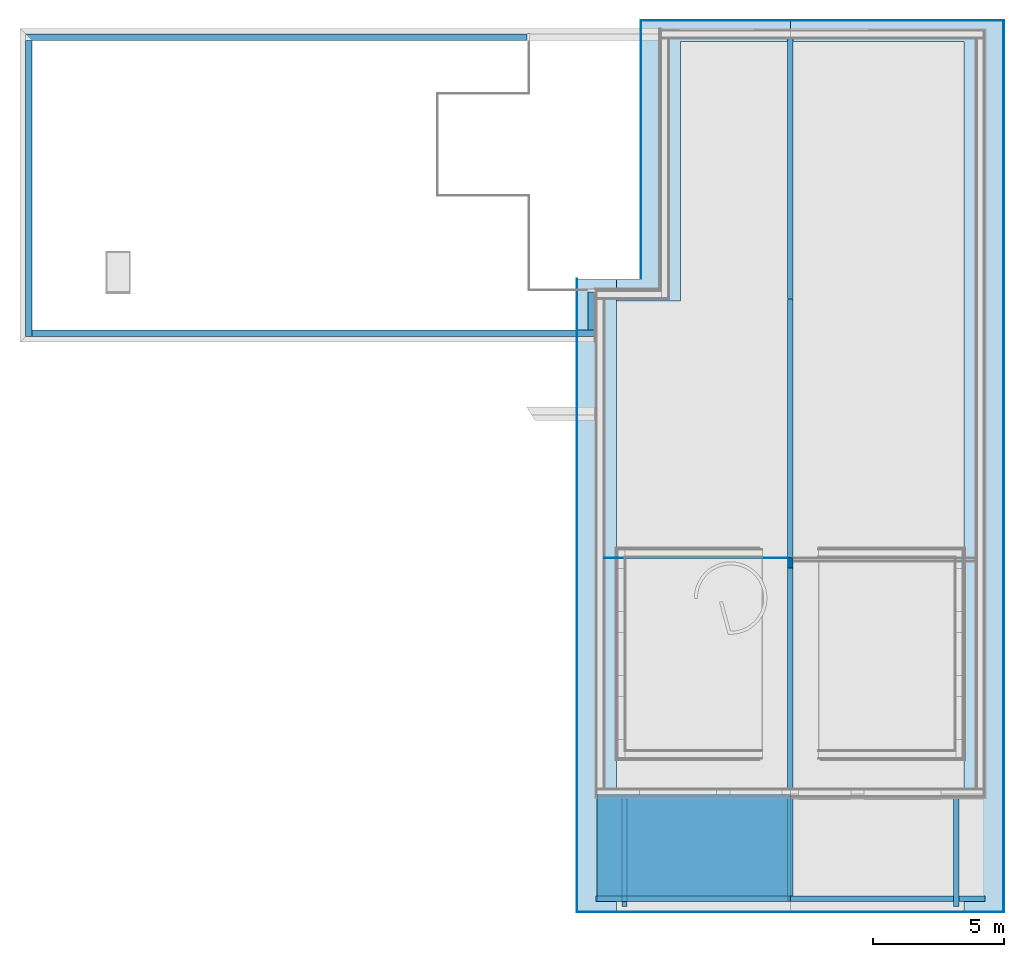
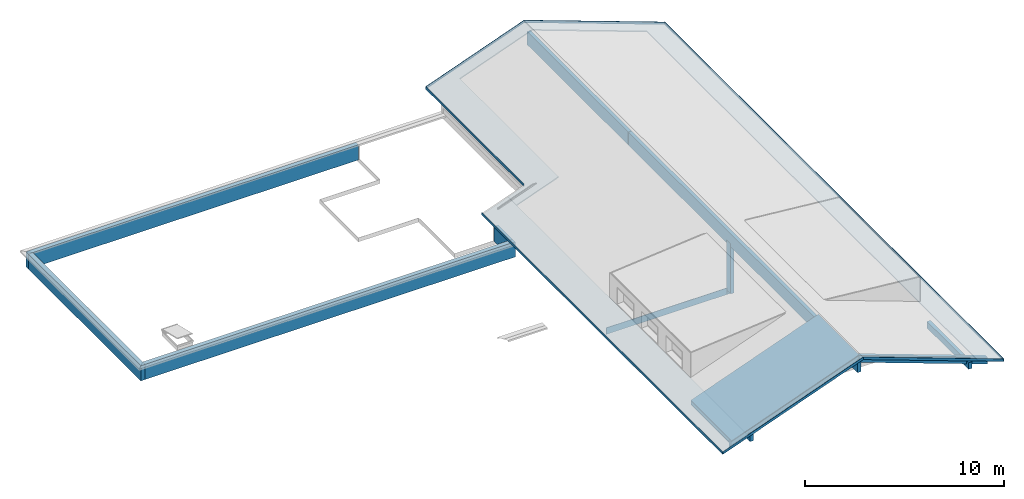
# One storey, part 1 of 12: 13 beams, 7 roofs, 5 building element parts, 1 column, 1 element without a shape of its own.
"""IFC4 building model written with IfcOpenShell, lengths in millimetres."""

from ifc_helpers import new_model, entity, si_unit, converted_unit, derived_unit, direction, frame, origin_with_axes, place, context, subcontext, project, spatial, polygons, material, constituent, constituent_set, type_object, element, aggregate, save


model = new_model("IFC4")

# Units and contexts
model_context = context("Model", 3, precision=0.01, world=origin_with_axes(), true_north=direction((0.0, 1.0)))
body_context = subcontext(model_context, "Body", "Model", "MODEL_VIEW")
ifc_project = project(units=[si_unit("LENGTHUNIT", "METRE", prefix="MILLI"), si_unit("AREAUNIT", "SQUARE_METRE"), si_unit("VOLUMEUNIT", "CUBIC_METRE"), converted_unit("PLANEANGLEUNIT", "DEGREE", entity("IfcPlaneAngleMeasure", 0.0174532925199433), si_unit("PLANEANGLEUNIT", "RADIAN"), dimensions=[0, 0, 0, 0, 0, 0, 0]), converted_unit("TIMEUNIT", "Year", entity("IfcTimeMeasure", 31557600.0), si_unit("TIMEUNIT", "SECOND"), dimensions=[0, 0, 1, 0, 0, 0, 0]), si_unit("MASSUNIT", "GRAM", prefix="KILO"), si_unit("THERMODYNAMICTEMPERATUREUNIT", "DEGREE_CELSIUS"), si_unit("LUMINOUSINTENSITYUNIT", "LUMEN"), si_unit("ENERGYUNIT", "JOULE", prefix="MEGA"), derived_unit("THERMALCONDUCTANCEUNIT", [(si_unit("POWERUNIT", "WATT"), 1), (si_unit("LENGTHUNIT", "METRE"), -1), (si_unit("THERMODYNAMICTEMPERATUREUNIT", "KELVIN"), -1)]), derived_unit("SPECIFICHEATCAPACITYUNIT", [(si_unit("ENERGYUNIT", "JOULE"), 1), (si_unit("MASSUNIT", "GRAM", prefix="KILO"), -1), (si_unit("THERMODYNAMICTEMPERATUREUNIT", "KELVIN"), -1)]), derived_unit("MASSDENSITYUNIT", [(si_unit("MASSUNIT", "GRAM", prefix="KILO"), 1), (si_unit("VOLUMEUNIT", "CUBIC_METRE"), -1)])], contexts=[model_context])

# Site, building, storey
site_placement = place(None, origin_with_axes())
site = spatial("IfcSite", under=ifc_project, at=site_placement, Name="Gelände", CompositionType="ELEMENT")
building_placement = place(site_placement, origin_with_axes())
building = spatial("IfcBuilding", under=site, at=building_placement, Name="Gebäude", CompositionType="ELEMENT")
storey_placement = place(building_placement, frame((0.0, 0.0, 11600.0), z_axis=(0.0, 0.0, 1.0), x_axis=(1.0, 0.0, 0.0)))
storey = spatial("IfcBuildingStorey", under=building, at=storey_placement, Name="Dachaufsicht", CompositionType="ELEMENT", Elevation=11600.0)

# Column
ifc_material_1 = material(Name="Vollholzwerkstoff")
column_type = type_object("IfcColumnType", Name="Vollholzwerkstoff 200 x 400", PredefinedType="NOTDEFINED")
column_placement = place(storey_placement, frame((25428.99744442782, 17489.67011252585, 243.9998960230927), z_axis=(0.0, 0.0, 1.0), x_axis=(1.0, 0.0, 0.0)))
element("IfcColumn", 1, at=column_placement, inside=storey, type_object=column_type, material=ifc_material_1, Name="Stütze-015", PredefinedType="NOTDEFINED", context=body_context, shape_type="Tessellation", body=[
    polygons([(100.0000000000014, -199.9999999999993, 256.0000000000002), (100.0000000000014, 172.9999999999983, 256.0000000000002), (100.0000000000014, 172.9999999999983, 0.0), (100.0000000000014, 199.9999999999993, 0.0), (100.0000000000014, 199.9999999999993, 3344.987419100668), (100.0000000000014, -199.9999999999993, 3344.987419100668), (-100.0000000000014, 172.9999999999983, 256.0000000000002), (-100.0000000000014, -199.9999999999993, 256.0000000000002), (-100.0000000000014, 172.9999999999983, 0.0), (-100.0000000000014, 199.9999999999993, 0.0), (-100.0000000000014, 199.9999999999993, 3344.987419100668), (-100.0000000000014, -199.9999999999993, 3344.987419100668)], [[[1, 2, 3, 4, 5, 6]], [[7, 2, 1, 8]], [[3, 2, 7, 9]], [[4, 3, 9, 10]], [[11, 5, 4, 10]], [[5, 11, 12, 6]], [[12, 8, 1, 6]], [[9, 7, 8, 12, 11, 10]]], closed=True),
])

# Beams
ifc_material_2 = material(Name="Massivholz")
beam_type_1 = type_object("IfcBeamType", Name="Massivholz 200 x 400", PredefinedType="NOTDEFINED")
beam_1_placement = place(storey_placement, frame((31882.99741880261, 8518.597281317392, 1906.551464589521), z_axis=(0.0, 0.0, 1.0), x_axis=(-1.0, 0.0, 0.0)))
element("IfcBeam", 2, at=beam_1_placement, inside=storey, type_object=beam_type_1, material=ifc_material_2, Name="Unterzug-027", PredefinedType="NOTDEFINED", context=body_context, shape_type="Tessellation", body=[
    polygons([(199.9999999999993, 0.0, 0.0), (199.9999999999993, 4199.999999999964, 0.0), (0.0, 4199.999999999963, 0.0), (0.0, 0.0, 0.0), (199.9999999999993, 0.0, -400.0000000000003), (199.9999999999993, 4199.999999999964, -400.0000000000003), (0.0, 4199.999999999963, -400.0000000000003), (0.0, 0.0, -400.0000000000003)], [[[1, 2, 3, 4]], [[5, 6, 2, 1]], [[3, 2, 6, 7]], [[4, 3, 7, 8]], [[5, 1, 4, 8]], [[8, 7, 6, 5]]], closed=True),
])
beam_2_placement = place(storey_placement, frame((25428.99744456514, 4518.597281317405, 4431.961620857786), z_axis=(0.0, 0.0, 1.0), x_axis=(0.0, -1.0, 0.0)))
element("IfcBeam", 3, at=beam_2_placement, inside=storey, type_object=beam_type_1, material=ifc_material_2, Name="Unterzug-027", PredefinedType="NOTDEFINED", context=body_context, shape_type="Tessellation", body=[
    polygons([(-200.0000000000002, 6453.999974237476, -2525.410156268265), (-200.0000000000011, 6253.999974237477, -2525.410156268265), (-199.9999999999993, 6253.999974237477, -2701.940944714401), (-200.0000000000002, 100.000000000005, -462.0681324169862), (-200.0000000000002, 100.000000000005, -228.0267504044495), (-199.9999999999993, -1.373123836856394e-07, -228.0267504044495), (-199.9999999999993, -1.373159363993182e-07, 4.997957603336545e-08), (-199.9999999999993, 7453.684706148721, -2712.919368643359), (-199.9999999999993, 7453.684706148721, -3138.590477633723), (-199.9999999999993, 6453.999974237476, -2774.734991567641), (0.0, 6253.999974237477, -2525.410156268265), (0.0, 6453.999974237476, -2525.410156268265), (0.0, 6253.999974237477, -2701.940944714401), (0.0, 100.000000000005, -462.0681324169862), (0.0, 100.000000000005, -228.0267504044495), (0.0, -1.373123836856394e-07, -228.0267504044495), (0.0, -1.373159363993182e-07, 4.997957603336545e-08), (0.0, 7453.684706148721, -2712.919368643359), (0.0, 7453.684706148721, -3138.590477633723), (0.0, 6453.999974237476, -2774.734991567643)], [[[1, 2, 3, 4, 5, 6, 7, 8, 9, 10]], [[11, 2, 1, 12]], [[13, 3, 2, 11]], [[4, 3, 13, 14]], [[14, 15, 5, 4]], [[15, 16, 6, 5]], [[17, 7, 6, 16]], [[8, 7, 17, 18]], [[8, 18, 19, 9]], [[19, 20, 10, 9]], [[12, 1, 10, 20]], [[11, 12, 20, 19, 18, 17, 16, 15, 14, 13]]], closed=True),
])
beam_3_placement = place(storey_placement, frame((18974.99747005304, 8518.5972813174, 1906.551464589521), z_axis=(0.0, 0.0, 1.0), x_axis=(-1.0, 0.0, 0.0)))
element("IfcBeam", 4, at=beam_3_placement, inside=storey, type_object=beam_type_1, material=ifc_material_2, Name="Unterzug-027", PredefinedType="NOTDEFINED", context=body_context, shape_type="Tessellation", body=[
    polygons([(0.0, 0.0, 0.0), (0.0, 3799.999999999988, 0.0), (-199.9999999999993, 3799.999999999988, 0.0), (-199.9999999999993, 0.0, 0.0), (0.0, 3999.999999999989, -249.3248352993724), (0.0, 3799.999999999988, -249.3248352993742), (0.0, 0.0, -400.0000000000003), (0.0, 4199.99999999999, -400.0000000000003), (0.0, 4199.99999999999, 0.0), (0.0, 3999.999999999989, 0.0), (-199.9999999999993, 3799.999999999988, -176.5307884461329), (-199.9999999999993, 3999.999999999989, -176.5307884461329), (-199.9999999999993, 3999.999999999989, 0.0), (-199.9999999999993, 4199.99999999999, 0.0), (-199.9999999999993, 4199.99999999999, -400.0000000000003), (-199.9999999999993, 0.0, -400.0000000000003)], [[[1, 2, 3, 4]], [[5, 6, 2, 1, 7, 8, 9, 10]], [[6, 11, 3, 2]], [[11, 12, 13, 14, 15, 16, 4, 3]], [[1, 4, 16, 7]], [[5, 12, 11, 6]], [[7, 16, 15, 8]], [[9, 8, 15, 14]], [[14, 13, 10, 9]], [[5, 10, 13, 12]]], closed=True),
])
beam_4_placement = place(storey_placement, frame((25428.9974442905, 4518.597281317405, 4431.961620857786), z_axis=(0.0, 0.0, 1.0), x_axis=(0.0, 1.0, 0.0)))
element("IfcBeam", 5, at=beam_4_placement, inside=storey, type_object=beam_type_1, material=ifc_material_2, Name="Unterzug-027", PredefinedType="NOTDEFINED", context=body_context, shape_type="Tessellation", body=[
    polygons([(0.0, -1.373159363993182e-07, 4.997957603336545e-08), (0.0, -1.373159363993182e-07, -228.0267504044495), (199.9999999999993, -1.373159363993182e-07, -228.0267504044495), (199.9999999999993, -1.373159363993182e-07, 4.997957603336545e-08), (0.0, 99.99999972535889, -462.0681323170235), (0.0, 99.99999972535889, -228.0267504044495), (0.0, 7453.684706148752, -2712.91936864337), (0.0, 7453.684706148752, -3138.590477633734), (199.9999999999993, 99.99999972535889, -228.0267504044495), (199.9999999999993, 99.99999972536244, -462.0681323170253), (199.9999999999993, 7453.684706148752, -3138.590477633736), (199.9999999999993, 7453.684706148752, -2712.91936864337)], [[[1, 2, 3, 4]], [[5, 6, 2, 1, 7, 8]], [[6, 9, 3, 2]], [[3, 9, 10, 11, 12, 4]], [[1, 4, 12, 7]], [[5, 10, 9, 6]], [[8, 7, 12, 11]], [[11, 10, 5, 8]]], closed=True),
])
ifc_material_3 = material(Name="Dreischichtplatte DSP")
beam_type_2 = type_object("IfcBeamType", Name="Dreischichtplatte DSP 27 x 406", PredefinedType="NOTDEFINED")
beam_5_placement = place(storey_placement, frame((25328.99744442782, 17662.67011252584, 243.9998960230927), z_axis=(0.0, 0.0, 1.0), x_axis=(0.0, 1.0, 0.0)))
element("IfcBeam", 6, at=beam_5_placement, inside=storey, type_object=beam_type_2, material=ifc_material_3, Name="Unterzug-027", PredefinedType="NOTDEFINED", context=body_context, shape_type="Tessellation", body=[
    polygons([(27.00000000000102, 0.0, 406.0002566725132), (27.00000000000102, 7020.999999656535, 406.0002566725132), (0.0, 7020.999999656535, 406.0002566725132), (0.0, 0.0, 406.0002566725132), (27.00000000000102, 0.0, 0.0), (27.00000000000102, 7020.999999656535, 0.0), (0.0, 7020.999999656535, 0.0), (0.0, 0.0, 0.0)], [[[1, 2, 3, 4]], [[5, 6, 2, 1]], [[3, 2, 6, 7]], [[4, 3, 7, 8]], [[5, 1, 4, 8]], [[8, 7, 6, 5]]], closed=True),
])
beam_type_3 = type_object("IfcBeamType", Name="Massivholz 21 x 150", PredefinedType="NOTDEFINED")
beam_6_placement = place(storey_placement, frame((25428.9974441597, 38279.59727976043, 4590.999520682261), z_axis=(0.0, 0.0, 1.0), x_axis=(0.0, -1.0, 0.0)))
element("IfcBeam", 7, at=beam_6_placement, inside=storey, type_object=beam_type_3, material=ifc_material_2, Name="Unterzug-027", PredefinedType="NOTDEFINED", context=body_context, shape_type="Tessellation", body=[
    polygons([(0.0, 0.0, -159.6266658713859), (0.0, 8162.754096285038, -3130.626186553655), (21.0000000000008, 8162.754096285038, -3130.626186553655), (21.0000000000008, 0.0, -159.6266658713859), (0.0, 0.0, 0.0), (0.0, 8162.754096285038, -2970.99952068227), (21.0000000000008, 8162.754096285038, -2970.99952068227), (21.0000000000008, 0.0, 0.0)], [[[1, 2, 3, 4]], [[5, 6, 2, 1]], [[3, 2, 6, 7]], [[4, 3, 7, 8]], [[5, 1, 4, 8]], [[8, 7, 6, 5]]], closed=True),
])
beam_7_placement = place(storey_placement, frame((25428.9974441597, 38279.59727976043, 4590.999520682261), z_axis=(0.0, 0.0, 1.0), x_axis=(0.0, 1.0, 0.0)))
element("IfcBeam", 8, at=beam_7_placement, inside=storey, type_object=beam_type_3, material=ifc_material_2, Name="Unterzug-027", PredefinedType="NOTDEFINED", context=body_context, shape_type="Tessellation", body=[
    polygons([(0.0, 0.0, 0.0), (0.0, 5711.754096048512, -2078.908476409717), (-21.0000000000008, 5711.754096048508, -2078.908476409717), (-21.0000000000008, 0.0, 0.0), (0.0, 0.0, -159.6266658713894), (0.0, 5711.754096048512, -2238.535142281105), (-21.0000000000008, 5711.754096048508, -2238.535142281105), (-21.0000000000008, 0.0, -159.6266658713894)], [[[1, 2, 3, 4]], [[5, 6, 2, 1]], [[3, 2, 6, 7]], [[4, 3, 7, 8]], [[5, 1, 4, 8]], [[8, 7, 6, 5]]], closed=True),
])
beam_8_placement = place(storey_placement, frame((25428.99744442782, 4097.597281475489, 4590.999520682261), z_axis=(0.0, 0.0, 1.0), x_axis=(0.0, -1.0, 0.0)))
element("IfcBeam", 9, at=beam_8_placement, inside=storey, type_object=beam_type_3, material=ifc_material_2, Name="Unterzug-027", PredefinedType="NOTDEFINED", context=body_context, shape_type="Tessellation", body=[
    polygons([(0.0, 0.0, 0.0), (0.0, 8162.754096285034, -2970.999520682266), (-21.0000000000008, 8162.754096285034, -2970.999520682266), (-20.99999999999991, 0.0, 0.0), (0.0, 0.0, -159.6266658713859), (0.0, 8162.754096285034, -3130.626186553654), (-21.0000000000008, 8162.754096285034, -3130.626186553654), (-20.99999999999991, 0.0, -159.6266658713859)], [[[1, 2, 3, 4]], [[5, 6, 2, 1]], [[3, 2, 6, 7]], [[4, 3, 7, 8]], [[5, 1, 4, 8]], [[8, 7, 6, 5]]], closed=True),
])
beam_9_placement = place(storey_placement, frame((25428.99744442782, 4097.597281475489, 4590.999520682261), z_axis=(0.0, 0.0, 1.0), x_axis=(0.0, 1.0, 0.0)))
element("IfcBeam", 10, at=beam_9_placement, inside=storey, type_object=beam_type_3, material=ifc_material_2, Name="Unterzug-027", PredefinedType="NOTDEFINED", context=body_context, shape_type="Tessellation", body=[
    polygons([(0.0, 0.0, -159.6266658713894), (0.0, 8162.754096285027, -3130.62618655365), (20.99999999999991, 8162.754096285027, -3130.62618655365), (20.99999999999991, 0.0, -159.6266658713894), (0.0, 0.0, 0.0), (0.0, 8162.754096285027, -2970.999520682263), (20.99999999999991, 8162.754096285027, -2970.999520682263), (20.99999999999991, 0.0, 0.0)], [[[1, 2, 3, 4]], [[5, 6, 2, 1]], [[3, 2, 6, 7]], [[4, 3, 7, 8]], [[5, 1, 4, 8]], [[8, 7, 6, 5]]], closed=True),
])
beam_type_4 = type_object("IfcBeamType", Name="Massivholz 21 x 160", PredefinedType="NOTDEFINED")
beam_10_placement = place(storey_placement, frame((19696.24334814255, 38279.5972813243, 2512.091044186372), z_axis=(0.0, 0.0, 1.0), x_axis=(-1.0, 0.0, 0.0)))
element("IfcBeam", 11, at=beam_10_placement, inside=storey, type_object=beam_type_4, material=ifc_material_2, Name="Unterzug-027", PredefinedType="NOTDEFINED", context=body_context, shape_type="Tessellation", body=[
    polygons([(0.0, 0.0, 0.0), (0.0, 9911.000000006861, 0.0), (-21.0000000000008, 9911.000000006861, 0.0), (-21.0000000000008, 0.0, 0.0), (0.0, 0.0, -160.0000000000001), (0.0, 9911.000000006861, -160.0000000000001), (-21.0000000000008, 9911.000000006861, -160.0000000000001), (-21.0000000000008, 0.0, -160.0000000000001)], [[[1, 2, 3, 4]], [[5, 6, 2, 1]], [[3, 2, 6, 7]], [[4, 3, 7, 8]], [[5, 1, 4, 8]], [[8, 7, 6, 5]]], closed=True),
])
beam_11_placement = place(storey_placement, frame((33612.75153937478, 38279.59728132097, 1620.000000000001), z_axis=(0.0, 0.0, 1.0), x_axis=(-1.0, 0.0, 0.0)))
element("IfcBeam", 12, at=beam_11_placement, inside=storey, type_object=beam_type_4, material=ifc_material_2, Name="Unterzug-027", PredefinedType="NOTDEFINED", context=body_context, shape_type="Tessellation", body=[
    polygons([(0.0, 0.0, -160.0000000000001), (0.0, 34181.99999971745, -160.0000000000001), (20.99999999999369, 34181.99999971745, -160.0000000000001), (21.0000000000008, 0.0, -160.0000000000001), (0.0, 0.0, 0.0), (0.0, 34181.99999971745, 0.0), (20.99999999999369, 34181.99999971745, 0.0), (21.0000000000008, 0.0, 0.0)], [[[1, 2, 3, 4]], [[5, 6, 2, 1]], [[3, 2, 6, 7]], [[4, 3, 7, 8]], [[5, 1, 4, 8]], [[8, 7, 6, 5]]], closed=True),
])
beam_12_placement = place(storey_placement, frame((17245.2433481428, 28368.59728131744, 1620.000000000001), z_axis=(0.0, 0.0, 1.0), x_axis=(-1.0, 0.0, 0.0)))
element("IfcBeam", 13, at=beam_12_placement, inside=storey, type_object=beam_type_4, material=ifc_material_2, Name="Unterzug-027", PredefinedType="NOTDEFINED", context=body_context, shape_type="Tessellation", body=[
    polygons([(0.0, 0.0, 0.0), (0.0, 24270.99999984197, 0.0), (-21.0000000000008, 24270.99999984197, 0.0), (-21.0000000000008, 0.0, 0.0), (0.0, 0.0, -160.0000000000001), (0.0, 24270.99999984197, -160.0000000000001), (-21.0000000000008, 24270.99999984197, -160.0000000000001), (-21.0000000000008, 0.0, -160.0000000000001)], [[[1, 2, 3, 4]], [[5, 6, 2, 1]], [[3, 2, 6, 7]], [[4, 3, 7, 8]], [[5, 1, 4, 8]], [[8, 7, 6, 5]]], closed=True),
])
beam_type_5 = type_object("IfcBeamType", Name="Massivholz 200 x 800", PredefinedType="NOTDEFINED")
beam_13_placement = place(storey_placement, frame((25428.99744456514, 37818.5972813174, 4203.934870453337), z_axis=(0.0, 0.0, 1.0), x_axis=(-1.0, 0.0, 0.0)))
element("IfcBeam", 14, at=beam_13_placement, inside=storey, type_object=beam_type_5, material=ifc_material_2, Name="Unterzug-027", PredefinedType="NOTDEFINED", context=body_context, shape_type="Tessellation", body=[
    polygons([(-100.0000000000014, 29282.00001869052, -800.0000000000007), (-99.99999986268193, 20528.92716879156, -800.0000000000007), (-99.99999986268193, 20528.92716879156, -614.9475553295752), (-99.99999986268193, 20128.92716879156, -614.9475553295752), (-99.99999986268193, 20128.92716879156, -800.0000000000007), (-100.0000000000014, 10218.99999999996, -800.0000000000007), (-100.0000000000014, 10218.99999999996, -3.000675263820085e-07), (-100.0000000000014, 29282.00001869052, -5.223554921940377e-08), (99.99999999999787, 29281.99999204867, -800.0000000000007), (100.0000001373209, 20528.92716879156, -800.0000000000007), (100.0000001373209, 20528.92716879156, -614.9475553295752), (100.0000001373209, 20128.92716879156, -614.9475553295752), (100.0000001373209, 20128.92716879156, -800.0000000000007), (99.99999999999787, 10218.99999999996, -800.0000000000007), (99.99999999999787, 10218.99999999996, -1.703717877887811e-05), (99.99999999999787, 29281.99999204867, -2.965876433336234e-06)], [[[1, 2, 3, 4, 5, 6, 7, 8]], [[9, 10, 2, 1]], [[11, 3, 2, 10]], [[12, 4, 3, 11]], [[13, 5, 4, 12]], [[6, 5, 13, 14]], [[15, 7, 6, 14]], [[15, 16, 8, 7]], [[16, 9, 1, 8]], [[12, 11, 10, 9, 16, 15, 14, 13]]], closed=True),
    polygons([(-100.0000000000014, 33300.0, -800.0000000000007), (-100.0000000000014, 29300.00001900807, -800.0000000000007), (-100.0000000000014, 29300.00001900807, -5.200284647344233e-08), (-100.0000000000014, 33300.0, 0.0), (99.99999999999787, 29300.00000539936, -800.0000000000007), (99.99999999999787, 33300.0, -800.0000000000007), (99.99999999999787, 29300.00000539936, -2.95258928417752e-06), (99.99999999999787, 33300.0, 0.0)], [[[1, 2, 3, 4]], [[5, 2, 1, 6]], [[7, 3, 2, 5]], [[4, 3, 7, 8]], [[4, 8, 6, 1]], [[8, 7, 5, 6]]], closed=True),
    polygons([(100.0000000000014, 0.0, 0.0), (100.0000000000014, 10200.99999999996, -1.703717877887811e-05), (-100.0000000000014, 10200.99999999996, -3.000675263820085e-07), (-100.0000000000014, 0.0, 0.0), (100.0000000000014, 0.0, -800.0000000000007), (99.99999999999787, 10200.99999999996, -800.0000000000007), (-100.0000000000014, 10200.99999999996, -800.0000000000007), (-100.0000000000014, 0.0, -800.0000000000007)], [[[1, 2, 3, 4]], [[5, 6, 2, 1]], [[7, 3, 2, 6]], [[4, 3, 7, 8]], [[5, 1, 4, 8]], [[7, 6, 5, 8]]], closed=True),
])

# Roofs
ifc_material_4 = material(Name="Beton bewehrt")
ifc_constituent_1 = constituent(ifc_material_4, Name="Beton bewehrt")
ifc_constituent_set_1 = constituent_set(constituents=[ifc_constituent_1], Name="Dachrand Typ 01 - Beton")
roof_type_1 = type_object("IfcRoofType", Name="Dachrand Typ 01 - Beton 250", PredefinedType="NOTDEFINED")
roof_1_placement = place(storey_placement, frame((-3861.004181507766, 37737.59728131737, 0.0), z_axis=(0.0, 0.0, 1.0), x_axis=(0.0, -1.0, 0.0)))
element("IfcRoof", 15, at=roof_1_placement, inside=storey, type_object=roof_type_1, material=ifc_constituent_set_1, Name="Wand-014", PredefinedType="NOTDEFINED", context=body_context, shape_type="Tessellation", body=[
    polygons([(250.0, 249.9999999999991, 0.0), (11580.0005405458, 250.000000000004, 0.0), (11580.0005405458, 0.0, 0.0), (250.0, 0.0, 0.0), (250.0, 249.9999999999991, 930.9999999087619), (11580.0005405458, 250.000000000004, 930.9999999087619), (11580.0005405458, 0.0, 930.9999999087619), (250.0, 0.0, 930.9999999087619)], [[[1, 2, 3, 4]], [[5, 6, 2, 1]], [[7, 3, 2, 6]], [[4, 3, 7, 8]], [[8, 5, 1, 4]], [[8, 7, 6, 5]]], closed=True),
])
ifc_constituent_2 = constituent(ifc_material_4, Name="Beton bewehrt")
ifc_constituent_set_2 = constituent_set(constituents=[ifc_constituent_2], Name="Dachrand Typ 01 - Beton")
roof_2_placement = place(storey_placement, frame((17919.99744477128, 26157.59674077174, 0.0), z_axis=(0.0, 0.0, 1.0), x_axis=(-1.0, 0.0, 0.0)))
element("IfcRoof", 16, at=roof_2_placement, inside=storey, type_object=roof_type_1, material=ifc_constituent_set_2, Name="Wand-014", PredefinedType="NOTDEFINED", context=body_context, shape_type="Tessellation", body=[
    polygons([(0.0, 0.0, 930.9999999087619), (0.0, -250.0, 930.9999999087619), (21531.00162627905, -250.000000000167, 930.9999999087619), (21531.00162627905, -1.669775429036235e-10, 930.9999999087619), (0.0, 0.0, 0.0), (0.0, -250.0, 0.0), (21531.00162627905, -250.000000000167, 0.0), (21531.00162627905, -1.669775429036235e-10, 0.0)], [[[1, 2, 3, 4]], [[1, 5, 6, 2]], [[2, 6, 7, 3]], [[7, 8, 4, 3]], [[5, 1, 4, 8]], [[6, 5, 8, 7]]], closed=True),
])
ifc_constituent_3 = constituent(ifc_material_4, Name="Beton bewehrt")
ifc_constituent_set_3 = constituent_set(constituents=[ifc_constituent_3], Name="Dachrand Typ 01 - Beton")
roof_3_placement = place(storey_placement, frame((17919.99744477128, 26157.59674077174, 0.0), z_axis=(0.0, 0.0, 1.0), x_axis=(0.0, 1.0, 0.0)))
element("IfcRoof", 17, at=roof_3_placement, inside=storey, type_object=roof_type_1, material=ifc_constituent_set_3, Name="Wand-014", PredefinedType="NOTDEFINED", context=body_context, shape_type="Tessellation", body=[
    polygons([(1710.000540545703, 249.9999999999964, 930.9999999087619), (252.7000914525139, 250.0, 930.9999999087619), (252.7000914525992, 0.0, 930.9999999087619), (1710.000540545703, 0.0, 930.9999999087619), (250.0000878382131, 250.0, 833.5267558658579), (252.7001324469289, 250.0, 833.5267558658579), (1710.000540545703, 249.9999999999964, 0.0), (249.9999999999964, 250.0, 0.0), (252.7001324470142, 0.0, 833.5267558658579), (250.0000878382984, 0.0, 833.5267558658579), (250.0, 0.0, 0.0), (1710.000540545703, 0.0, 0.0)], [[[1, 2, 3, 4]], [[5, 6, 2, 1, 7, 8]], [[6, 9, 3, 2]], [[3, 9, 10, 11, 12, 4]], [[1, 4, 12, 7]], [[5, 10, 9, 6]], [[12, 11, 8, 7]], [[11, 10, 5, 8]]], closed=True),
])
ifc_constituent_4 = constituent(ifc_material_4, Name="Beton bewehrt")
ifc_constituent_set_4 = constituent_set(constituents=[ifc_constituent_4], Name="Dachrand Typ 01 - Beton")
roof_4_placement = place(storey_placement, frame((15348.99744477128, 37737.59728131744, 0.0), z_axis=(0.0, 0.0, 1.0), x_axis=(-1.0, 0.0, 0.0)))
element("IfcRoof", 18, at=roof_4_placement, inside=storey, type_object=roof_type_1, material=ifc_constituent_set_4, Name="Wand-014", PredefinedType="NOTDEFINED", context=body_context, shape_type="Tessellation", body=[
    polygons([(0.0, 250.0, 0.0), (19210.00162627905, 249.9999999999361, 0.0), (19210.00162627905, 0.0, 0.0), (0.0, 0.0, 0.0), (0.0, 250.0, 930.9999999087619), (19210.00162627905, 249.9999999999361, 930.9999999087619), (19210.00162627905, 0.0, 930.9999999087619), (0.0, 0.0, 930.9999999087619)], [[[1, 2, 3, 4]], [[5, 6, 2, 1]], [[7, 3, 2, 6]], [[4, 3, 7, 8]], [[8, 5, 1, 4]], [[8, 7, 6, 5]]], closed=True),
])
ifc_constituent_5 = constituent(ifc_material_3, Name="Dreischichtplatte DSP")
ifc_constituent_set_5 = constituent_set(constituents=[ifc_constituent_5], Name="Vordach Typ 01")
roof_type_2 = type_object("IfcRoofType", Name="Vordach Typ 01 60", PredefinedType="NOTDEFINED")
roof_5_placement = place(storey_placement, frame((17266.2433481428, 28347.59728131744, 1461.733570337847), z_axis=(0.0, 0.0, 1.0), x_axis=(0.0, -1.0, 0.0)))
element("IfcRoof", 19, at=roof_5_placement, inside=storey, type_object=roof_type_2, material=ifc_constituent_set_5, Name="Dach-011", PredefinedType="NOTDEFINED", context=body_context, shape_type="Tessellation", body=[
    polygons([(0.0, 0.0, 63.85066634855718), (24229.00000000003, 0.0, 63.85066634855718), (24229.00000000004, 1503.508193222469, 611.0828956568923), (0.0, 1503.508193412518, 611.0828957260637), (1.064286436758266e-07, -4.003908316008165e-09, 4.346247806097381e-07), (24229.00000038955, -4.003908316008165e-09, 4.346247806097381e-07), (24229.00000038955, 1503.508192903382, 547.2322296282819), (1.064286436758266e-07, 1503.50819377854, 547.2322299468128)], [[[1, 2, 3, 4]], [[2, 1, 5, 6]], [[3, 2, 6, 7]], [[4, 3, 7, 8]], [[1, 4, 8, 5]], [[6, 5, 8, 7]]], closed=True),
])
ifc_constituent_6 = constituent(ifc_material_3, Name="Dreischichtplatte DSP")
ifc_constituent_set_6 = constituent_set(constituents=[ifc_constituent_6], Name="Vordach Typ 01")
roof_6_placement = place(storey_placement, frame((19753.24334819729, 37876.59728787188, 2366.927542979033), z_axis=(0.0, 0.0, 1.0), x_axis=(0.0, -1.0, 0.0)))
element("IfcRoof", 20, at=roof_6_placement, inside=storey, type_object=roof_type_2, material=ifc_constituent_set_6, Name="Dach-011", PredefinedType="NOTDEFINED", context=body_context, shape_type="Tessellation", body=[
    polygons([(9529.000006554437, -983.4918066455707, -294.1110769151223), (10368.99999999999, -983.4918066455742, -294.1110769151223), (10368.99999999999, 1467.508193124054, 597.9799671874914), (418.0000064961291, 1467.508193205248, 597.9799672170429), (418.0000065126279, 5675.754096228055, 2129.656214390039), (-381.9999933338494, 5675.754096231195, 2129.656214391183), (-381.9999933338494, -36.00000005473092, 50.74773789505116), (9529.000006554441, -36.00000005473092, 50.74773789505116), (9529.000006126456, -983.4918066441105, -357.9617428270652), (10369.00000038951, -983.4918066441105, -357.9617428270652), (10369.00000038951, 1467.508193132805, 534.1293012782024), (418.0000065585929, 1467.508193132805, 534.1293012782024), (418.0000065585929, 5675.75409659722, 2065.80554861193), (-381.9999932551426, 5675.75409659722, 2065.80554861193), (-381.9999932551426, -35.99999977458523, -13.10292791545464), (9529.000006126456, -35.99999977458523, -13.10292791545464)], [[[1, 2, 3, 4, 5, 6, 7, 8]], [[2, 1, 9, 10]], [[3, 2, 10, 11]], [[4, 3, 11, 12]], [[5, 4, 12, 13]], [[6, 5, 13, 14]], [[7, 6, 14, 15]], [[8, 7, 15, 16]], [[1, 8, 16, 9]], [[10, 9, 16, 15, 14, 13, 12, 11]]], closed=True),
])
ifc_constituent_7 = constituent(ifc_material_3, Name="Dreischichtplatte DSP")
ifc_constituent_set_7 = constituent_set(constituents=[ifc_constituent_7], Name="Vordach Typ 01")
roof_7_placement = place(storey_placement, frame((33591.7515400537, 4118.597281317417, 1461.733570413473), z_axis=(0.0, 0.0, 1.0), x_axis=(0.0, 1.0, 0.0)))
element("IfcRoof", 21, at=roof_7_placement, inside=storey, type_object=roof_type_2, material=ifc_constituent_set_7, Name="Dach-011", PredefinedType="NOTDEFINED", context=body_context, shape_type="Tessellation", body=[
    polygons([(34140.00000000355, 8162.754096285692, 3034.850187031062), (33339.99999999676, 8162.754096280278, 3034.850187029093), (33340.00000004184, 1503.508193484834, 611.0828957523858), (0.0, 1503.508193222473, 611.0828956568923), (0.0, 0.0, 63.85066634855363), (34140.00000000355, 0.0, 63.85066634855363), (34140.00000039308, 8162.754096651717, 2970.999521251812), (33339.99999964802, 8162.754096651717, 2970.999521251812), (33339.99999964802, 1503.50819341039, 547.232229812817), (-2.029700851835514e-07, 1503.50819341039, 547.232229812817), (-2.029700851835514e-07, -3.721609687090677e-07, 3.006270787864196e-07), (34140.00000039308, -3.721609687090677e-07, 3.006270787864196e-07)], [[[1, 2, 3, 4, 5, 6]], [[2, 1, 7, 8]], [[3, 2, 8, 9]], [[4, 3, 9, 10]], [[5, 4, 10, 11]], [[6, 5, 11, 12]], [[1, 6, 12, 7]], [[8, 7, 12, 11, 10, 9]]], closed=True),
])

# Roof, building element parts
roof_type_3 = type_object("IfcRoofType", Name="Steildach Typ 01 255", PredefinedType="NOTDEFINED")
roof_8_placement = place(storey_placement, frame((18015.88667437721, 8518.597281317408, 1505.760360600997), z_axis=(0.0, 0.0, 1.0), x_axis=(0.0005412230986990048, -0.9999998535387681, 0.0)))
roof_8 = element("IfcRoof", 22, at=roof_8_placement, inside=storey, type_object=roof_type_3, Name="Dach-011", PredefinedType="NOTDEFINED")
ifc_material_5 = material(Name="Dreischichtplatte-DSP")
building_element_part_1_placement = place(roof_8_placement, origin_with_axes())
building_element_part_1 = element("IfcBuildingElementPart", 23, at=building_element_part_1_placement, material=ifc_material_5, Name="Dreischichtplatte-DSP", PredefinedType="NOTDEFINED", context=body_context, shape_type="Tessellation", body=[
    polygons([(4000.002699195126, -0.05412346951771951, 271.3456319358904), (4004.013704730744, 7410.944790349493, 2968.728642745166), (-113.97045287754, 7413.173538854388, 2969.539840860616), (-117.9814572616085, 2.174625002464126, 272.1568300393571), (4004.008151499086, 7410.944793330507, 2936.803311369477), (3999.997145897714, -0.05412046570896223, 239.4203005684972), (-113.9760061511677, 7413.17354190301, 2937.614509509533), (-117.9870105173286, 2.17462797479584, 240.2314986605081)], [[[1, 2, 3, 4]], [[5, 2, 1, 6]], [[7, 3, 2, 5]], [[8, 4, 3, 7]], [[6, 1, 4, 8]], [[6, 8, 7, 5]]], closed=True),
])
ifc_material_6 = material(Name="Balken Konstruktion gedämmt")
building_element_part_2_placement = place(roof_8_placement, origin_with_axes())
building_element_part_2 = element("IfcBuildingElementPart", 24, at=building_element_part_2_placement, material=ifc_material_6, Name="Balken Konstruktion gedämmt", PredefinedType="NOTDEFINED", context=body_context, shape_type="Tessellation", body=[
    polygons([(3804.011590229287, 7411.053036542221, 2926.201260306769), (3804.011590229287, 7411.053036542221, 2734.648931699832), (-114.0111768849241, 7413.173561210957, 2735.420739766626), (-113.9760061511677, 7413.17354190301, 2937.614509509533), (4004.008151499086, 7410.944793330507, 2936.803311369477), (4004.006307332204, 7410.94479476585, 2926.201260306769), (3800.000585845, 0.05412229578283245, 228.8178542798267), (3800.000585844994, 0.05412228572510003, 37.26592093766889), (-118.0221811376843, 2.17464679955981, 38.03772874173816), (-117.9870105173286, 2.17462797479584, 240.2314986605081), (3999.997145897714, -0.05412046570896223, 239.4203005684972), (3999.995301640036, -0.05411946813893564, 228.8178542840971)], [[[1, 2, 3, 4, 5, 6]], [[2, 1, 7, 8]], [[2, 8, 9, 3]], [[4, 3, 9, 10]], [[4, 10, 11, 5]], [[12, 6, 5, 11]], [[1, 6, 12, 7]], [[7, 12, 11, 10, 9, 8]]], closed=True),
])
ifc_material_7 = material(Name="Gipskartonplatte GKP")
building_element_part_3_placement = place(roof_8_placement, origin_with_axes())
building_element_part_3 = element("IfcBuildingElementPart", 25, at=building_element_part_3_placement, material=ifc_material_7, Name="Gipskartonplatte GKP", PredefinedType="NOTDEFINED", context=body_context, shape_type="Tessellation", body=[
    polygons([(3800.000585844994, 0.05412228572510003, 37.26592093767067), (3804.011590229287, 7411.053036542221, 2734.648931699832), (-114.0111768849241, 7413.173561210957, 2735.420739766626), (-118.0221811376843, 2.17464679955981, 38.03772874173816), (3804.011590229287, 7411.053036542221, 2721.346709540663), (3800.000585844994, 0.05412228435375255, 23.96369878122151), (3803.957467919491, 7311.053051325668, 2684.949691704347), (3803.957467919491, 7311.053051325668, 2698.17450985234), (3803.977133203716, 7347.387940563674, 2698.17450985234), (-114.013490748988, 7413.173562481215, 2722.118518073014), (-118.0244949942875, 2.174648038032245, 24.73550703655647), (4003.936268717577, 7347.387940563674, 2698.17450985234), (4003.916544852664, 7310.944828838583, 2684.910301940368), (4003.918852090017, 7310.944827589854, 2698.17450985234)], [[[1, 2, 3, 4]], [[5, 2, 1, 6, 7, 8, 9]], [[2, 5, 10, 3]], [[11, 4, 3, 10]], [[6, 1, 4, 11]], [[7, 6, 11, 10, 5, 9, 12, 13]], [[7, 13, 14, 8]], [[14, 12, 9, 8]], [[14, 13, 12]]], closed=True),
])
building_element_part_4_placement = place(roof_8_placement, origin_with_axes())
building_element_part_4 = element("IfcBuildingElementPart", 26, at=building_element_part_4_placement, material=ifc_material_7, Name="Gipskartonplatte GKP", PredefinedType="NOTDEFINED", context=body_context, shape_type="Tessellation", body=[
    polygons([(4003.936268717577, 7347.387940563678, 2698.17450985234), (3803.977133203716, 7347.387940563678, 2698.17450985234), (3804.011590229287, 7411.053036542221, 2721.346709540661), (-114.013490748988, 7413.173562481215, 2722.118518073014), (-118.0244949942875, 2.174648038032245, 24.73550703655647), (3800.000585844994, 0.05412228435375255, 23.96369878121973), (3803.957467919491, 7311.053051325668, 2684.949691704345), (4003.916544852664, 7310.944828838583, 2684.910301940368), (4003.953735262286, 7383.935495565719, 2698.17450985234), (3803.996913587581, 7383.935495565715, 2698.17450985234), (3804.011590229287, 7411.053036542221, 2708.044487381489), (-114.0158046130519, 7413.173563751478, 2708.816296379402), (-118.0268088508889, 2.174649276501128, 11.433285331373), (3800.000585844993, 0.05412228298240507, 10.66147662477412), (3803.957467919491, 7311.053051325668, 2671.647469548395), (4003.914231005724, 7310.94483009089, 2671.608080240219)], [[[1, 2, 3, 4, 5, 6, 7, 8]], [[1, 9, 10, 2]], [[11, 3, 2, 10]], [[3, 11, 12, 4]], [[13, 5, 4, 12]], [[14, 6, 5, 13]], [[7, 6, 14, 15]], [[8, 7, 15, 16]], [[9, 1, 8, 16]], [[10, 9, 16, 15, 14, 13, 12, 11]]], closed=True),
])
ifc_material_8 = material(Name="Kalkzementputz Aussen")
building_element_part_5_placement = place(roof_8_placement, origin_with_axes())
building_element_part_5 = element("IfcBuildingElementPart", 27, at=building_element_part_5_placement, material=ifc_material_8, Name="Kalkzementputz Aussen", PredefinedType="NOTDEFINED", context=body_context, shape_type="Tessellation", body=[
    polygons([(4003.953735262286, 7383.935495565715, 2698.17450985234), (3803.996913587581, 7383.935495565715, 2698.17450985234), (3804.011590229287, 7411.053036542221, 2708.044487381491), (-114.0158046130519, 7413.173563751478, 2708.816296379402), (-118.0268088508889, 2.174649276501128, 11.433285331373), (3800.000585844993, 0.05412228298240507, 10.66147662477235), (3803.957467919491, 7311.053051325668, 2671.647469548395), (4003.914231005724, 7310.94483009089, 2671.608080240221), (4003.966643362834, 7410.944816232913, 2698.17450985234), (3804.011590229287, 7411.053036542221, 2698.17450985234), (4003.966502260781, 7410.944815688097, 2697.363321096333), (-114.0176557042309, 7413.173564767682, 2698.174519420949), (-118.0286599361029, 2.174650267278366, 0.7915083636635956), (3800.000585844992, 0.05412228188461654, 0.01969929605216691), (3803.957467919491, 7311.053051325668, 2661.005692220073), (4003.91237992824, 7310.944831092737, 2660.966303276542)], [[[1, 2, 3, 4, 5, 6, 7, 8]], [[9, 10, 2, 1]], [[10, 3, 2]], [[10, 9, 11, 12, 4, 3]], [[13, 5, 4, 12]], [[14, 6, 5, 13]], [[7, 6, 14, 15]], [[8, 7, 15, 16]], [[9, 1, 8, 16, 11]], [[15, 14, 13, 12, 11, 16]]], closed=True),
])
aggregate(roof_8, [building_element_part_1, building_element_part_2, building_element_part_3, building_element_part_4, building_element_part_5])

save(model, "model.ifc")
